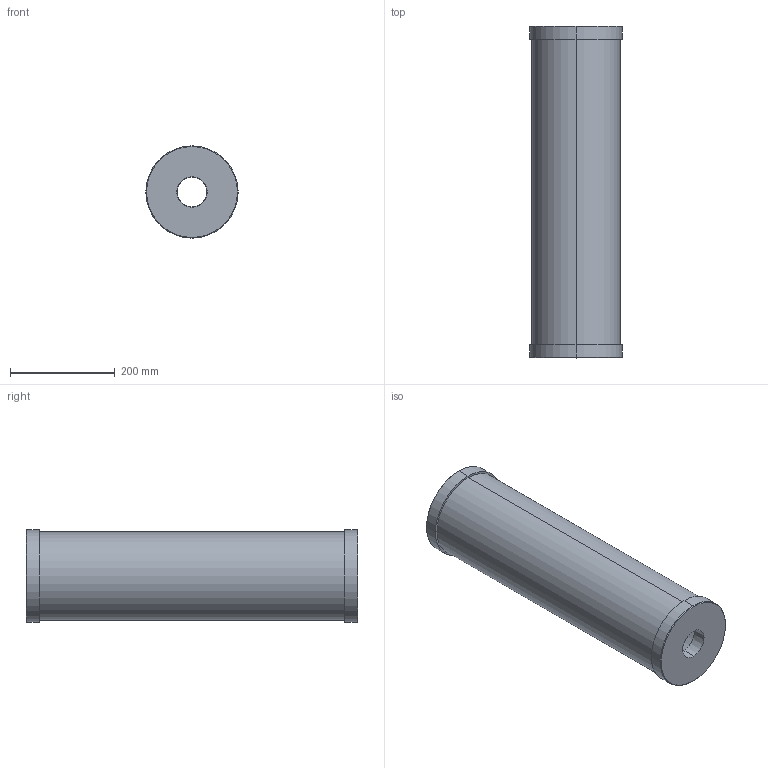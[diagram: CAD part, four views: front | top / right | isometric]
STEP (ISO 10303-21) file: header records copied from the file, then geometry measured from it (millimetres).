
FILE_DESCRIPTION (( 'STEP AP203' ), '1' );
FILE_NAME ('CC10000_P_BSPT.STEP', '2016-03-21T09:33:04', ( '' ), ( '' ), 'SwSTEP 2.0', 'SolidWorks 2014', '' );
FILE_SCHEMA (( 'CONFIG_CONTROL_DESIGN' ));
Length unit declared in the file: inch
Products named in the file (2): CC10000_P_BSPT
Bounding box: 176.53 x 635 x 176.53 mm (x, y, z)
Volume: 3888660.3 mm3; surface area: 697740.5 mm2
Topology: 1 solids, 1 shells, 22 faces, 44 edges, 28 vertices
Faces by surface type: cone 8, cylinder 8, plane 6
Entity records: 745 total; most frequent: DIRECTION 120, CARTESIAN_POINT 96, ORIENTED_EDGE 88, AXIS2_PLACEMENT_3D 52, EDGE_CURVE 44, CIRCLE 28, EDGE_LOOP 28, VERTEX_POINT 28
